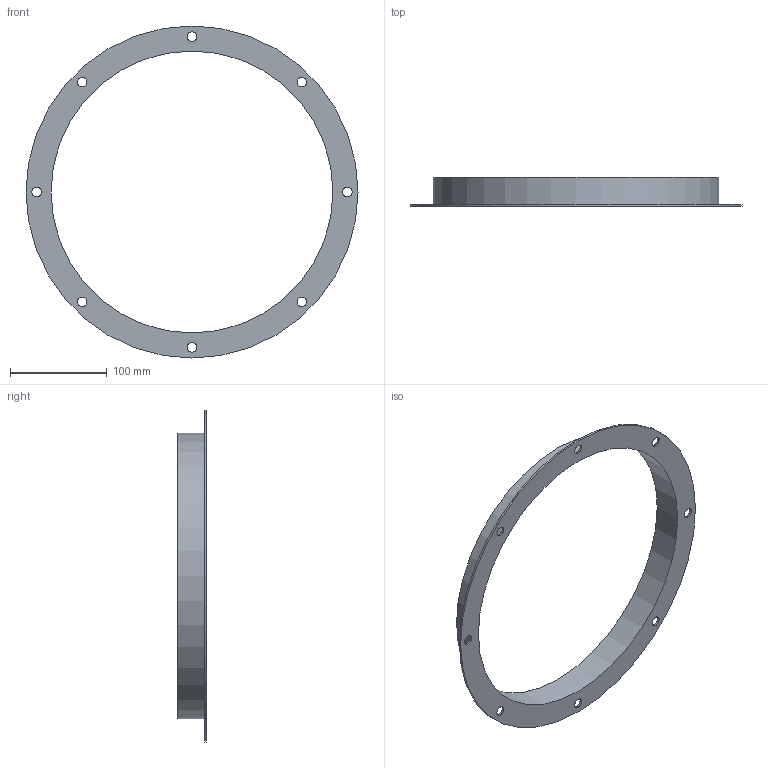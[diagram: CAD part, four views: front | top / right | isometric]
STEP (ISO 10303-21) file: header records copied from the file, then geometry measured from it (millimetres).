
FILE_DESCRIPTION(/* description */ (''),/* implementation_level */ '2;1');
FILE_NAME(/* name */ 'Z:\Output\FR 280-01214-001.stp',/* time_stamp */ '2017-05-04T16:47:15+02:00',/* author */ ('engineering1'),/* organization */ (''),/* preprocessor_version */ 'ST-DEVELOPER v16.5',/* originating_system */ 'Autodesk Inventor 2017',/* authorisation */ '');
FILE_SCHEMA (('AUTOMOTIVE_DESIGN { 1 0 10303 214 3 1 1 }'));
Length unit declared in the file: millimetre
Products named in the file (1): FR-1
Bounding box: 344 x 30 x 344 mm (x, y, z)
Volume: 102415.9 mm3; surface area: 106914.7 mm2
Topology: 1 solids, 1 shells, 14 faces, 41 edges, 30 vertices
Faces by surface type: cylinder 11, plane 3
Full cylindrical faces by diameter (mm): 10 x8, 292 x1, 296 x1, 344 x1
Entity records: 430 total; most frequent: DIRECTION 74, CARTESIAN_POINT 59, EDGE_LOOP 44, ORIENTED_EDGE 44, AXIS2_PLACEMENT_3D 37, FACE_BOUND 30, CIRCLE 22, VERTEX_POINT 22
